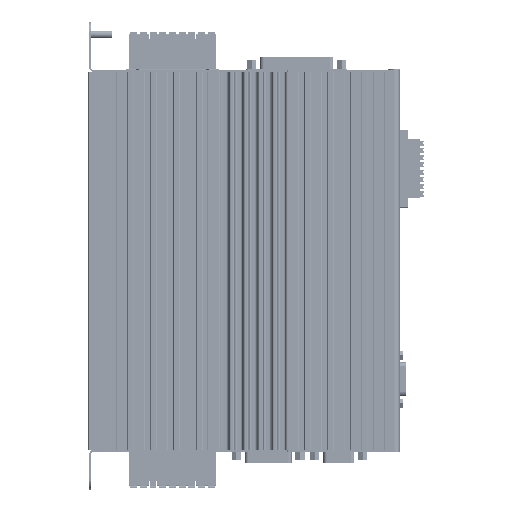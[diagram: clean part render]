
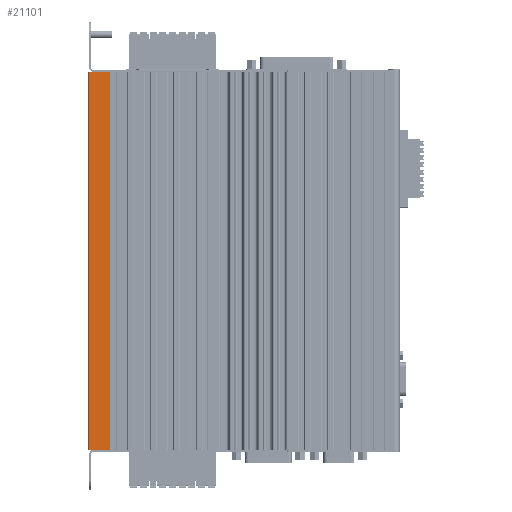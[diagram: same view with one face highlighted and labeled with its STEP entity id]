
A CAD part, left-side view. The second image highlights one B-rep face of the part: STEP entity #21101.
In plain terms, the highlighted planar face has unit normal (-1, 0, 0).
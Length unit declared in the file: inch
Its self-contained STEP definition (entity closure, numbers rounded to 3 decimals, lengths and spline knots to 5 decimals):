
#21101=ADVANCED_FACE('',(#46908),#46909,.T.);
#46908=FACE_OUTER_BOUND('',#87176,.T.);
#46909=PLANE('',#87177);
#87176=EDGE_LOOP('',(#152079,#152080,#152081,#152082));
#87177=AXIS2_PLACEMENT_3D('',#152083,#152084,#152085);
#152079=ORIENTED_EDGE('',*,*,#236311,.T.);
#152080=ORIENTED_EDGE('',*,*,#236312,.F.);
#152081=ORIENTED_EDGE('',*,*,#236313,.F.);
#152082=ORIENTED_EDGE('',*,*,#225423,.T.);
#152083=CARTESIAN_POINT('',(1.12205,-2.9252,7.783));
#152084=DIRECTION('',(-1.0,0.,0.));
#152085=DIRECTION('',(0.,0.0,1.0));
#225423=EDGE_CURVE('',#265413,#265411,#265414,.T.);
#236311=EDGE_CURVE('',#265411,#284140,#284141,.T.);
#236312=EDGE_CURVE('',#284142,#284140,#284143,.T.);
#236313=EDGE_CURVE('',#265413,#284142,#284144,.T.);
#265411=VERTEX_POINT('',#325142);
#265413=VERTEX_POINT('',#325144);
#265414=LINE('',#325145,#325146);
#284140=VERTEX_POINT('',#354434);
#284141=LINE('',#354435,#354436);
#284142=VERTEX_POINT('',#354437);
#284143=LINE('',#354438,#354439);
#284144=LINE('',#354440,#354441);
#325142=CARTESIAN_POINT('',(1.12205,-2.49213,-0.01227));
#325144=CARTESIAN_POINT('',(1.12205,-2.49213,7.783));
#325145=CARTESIAN_POINT('',(1.12205,-2.49213,7.783));
#325146=VECTOR('',#415769,0.03937);
#354434=CARTESIAN_POINT('',(1.12205,-2.9252,-0.01227));
#354435=CARTESIAN_POINT('',(1.12205,-2.49213,-0.01227));
#354436=VECTOR('',#427379,0.03937);
#354437=CARTESIAN_POINT('',(1.12205,-2.9252,7.783));
#354438=CARTESIAN_POINT('',(1.12205,-2.9252,7.783));
#354439=VECTOR('',#427380,0.03937);
#354440=CARTESIAN_POINT('',(1.12205,-2.49213,7.783));
#354441=VECTOR('',#427381,0.03937);
#415769=DIRECTION('',(0.,0.,-1.0));
#427379=DIRECTION('',(0.,-1.0,0.0));
#427380=DIRECTION('',(0.,0.,-1.0));
#427381=DIRECTION('',(0.0,-1.0,0.0));
